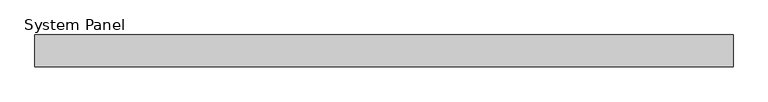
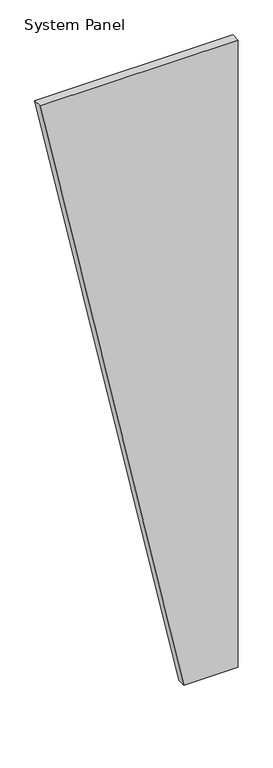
"""IFC4 building model written with IfcOpenShell, lengths in millimetres: plate geometry, System Panel : MetecnoPanel_50mm_Plain_Surfmist."""

from ifc_helpers import new_model, si_unit, frame, origin, place, context, project, spatial, polyline, outline, extrude, source, transform, mapped, element, save


def system_panel_e9b7887a(model_context):
    return source(origin(), model_context, "Body", "SweptSolid", [
        extrude(outline(polyline([(0.0, 250.0), (0.0, 550.0), (3679.9704237, 550.0), (3679.9704237, -550.0), (0.0, 250.0)])), frame((0.0, -50.0, 0.0), z_axis=(0.0, 1.0, 0.0), x_axis=(0.0, 0.0, 1.0)), (0.0, 0.0, 1.0), 50.0),
    ])


if __name__ == "__main__":
    model = new_model("IFC4")
    model_context = context("Model", 3, world=origin())
    ifc_project = project(units=[si_unit("LENGTHUNIT", "METRE", prefix="MILLI")], contexts=[model_context])
    site = spatial("IfcSite", under=ifc_project)
    building = spatial("IfcBuilding", under=site)
    placement = place(None, origin())
    system_panel_shape = system_panel_e9b7887a(model_context)
    element("IfcPlate", 1, ObjectType="System Panel : MetecnoPanel_50mm_Plain_Surfmist", at=placement, inside=building, context=model_context, shape_type="MappedRepresentation", body=[
        mapped(system_panel_shape, transform((0.0, 0.0, 0.0), x_axis=(1.0, 0.0, 0.0), y_axis=(0.0, 1.0, 0.0), z_axis=(0.0, 0.0, 1.0))),
    ])
    save(model, "model.ifc")
